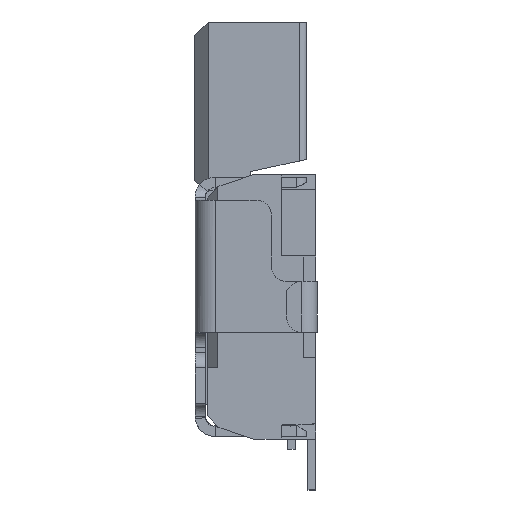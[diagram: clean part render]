
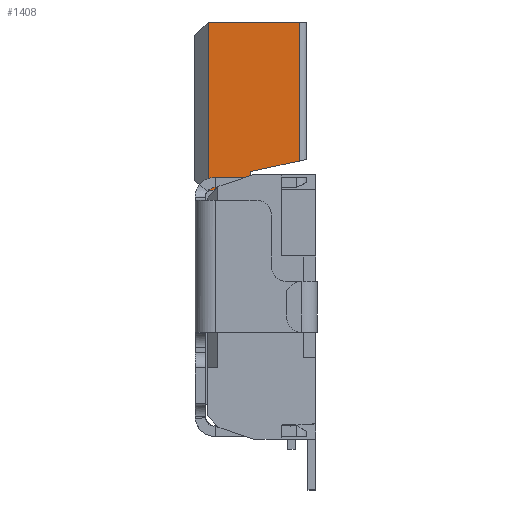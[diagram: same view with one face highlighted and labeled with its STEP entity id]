
A CAD part, left-side view. The second image highlights one B-rep face of the part: STEP entity #1408.
In plain terms, the highlighted planar face has unit normal (-1, 0, 0).
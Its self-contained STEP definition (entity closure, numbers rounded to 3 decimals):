
#1378 = ORIENTED_EDGE ( 'NONE', *, *, #1552, .F. ) ;
#1400 = VERTEX_POINT ( 'NONE', #2704 ) ;
#1402 = EDGE_CURVE ( 'NONE', #1509, #1483, #2702, .T. ) ;
#1408 = ADVANCED_FACE ( 'NONE', ( #2858 ), #2927, .T. ) ;
#1463 = ORIENTED_EDGE ( 'NONE', *, *, #1464, .T. ) ;
#1464 = EDGE_CURVE ( 'NONE', #14838, #1485, #3002, .T. ) ;
#1472 = EDGE_CURVE ( 'NONE', #5924, #1400, #2975, .T. ) ;
#1482 = EDGE_CURVE ( 'NONE', #1483, #1504, #3076, .T. ) ;
#1483 = VERTEX_POINT ( 'NONE', #3072 ) ;
#1484 = ORIENTED_EDGE ( 'NONE', *, *, #5874, .T. ) ;
#1485 = VERTEX_POINT ( 'NONE', #3071 ) ;
#1486 = ORIENTED_EDGE ( 'NONE', *, *, #1482, .T. ) ;
#1488 = ORIENTED_EDGE ( 'NONE', *, *, #1402, .T. ) ;
#1500 = VERTEX_POINT ( 'NONE', #2966 ) ;
#1504 = VERTEX_POINT ( 'NONE', #2959 ) ;
#1505 = EDGE_LOOP ( 'NONE', ( #1486, #1378, #1679, #1484, #1463, #1548, #1657, #1507, #1488 ) ) ;
#1507 = ORIENTED_EDGE ( 'NONE', *, *, #1508, .T. ) ;
#1508 = EDGE_CURVE ( 'NONE', #1551, #1509, #3000, .T. ) ;
#1509 = VERTEX_POINT ( 'NONE', #2996 ) ;
#1548 = ORIENTED_EDGE ( 'NONE', *, *, #1550, .T. ) ;
#1549 = EDGE_CURVE ( 'NONE', #1500, #1551, #3230, .T. ) ;
#1550 = EDGE_CURVE ( 'NONE', #1485, #1500, #3252, .T. ) ;
#1551 = VERTEX_POINT ( 'NONE', #3248 ) ;
#1552 = EDGE_CURVE ( 'NONE', #1400, #1504, #3233, .T. ) ;
#1657 = ORIENTED_EDGE ( 'NONE', *, *, #1549, .T. ) ;
#1679 = ORIENTED_EDGE ( 'NONE', *, *, #1472, .F. ) ;
#2699 = DIRECTION ( 'NONE',  ( 0., 0., 1. ) ) ;
#2700 = VECTOR ( 'NONE', #2699, 1000. ) ;
#2701 = CARTESIAN_POINT ( 'NONE',  ( 0.85, 0.637, 2.9 ) ) ;
#2702 = LINE ( 'NONE', #2701, #2700 ) ;
#2704 = CARTESIAN_POINT ( 'NONE',  ( 0.85, 0.162, 2.9 ) ) ;
#2847 = AXIS2_PLACEMENT_3D ( 'NONE', #2849, #2848, #2935 ) ;
#2848 = DIRECTION ( 'NONE',  ( -1., 0., 0. ) ) ;
#2849 = CARTESIAN_POINT ( 'NONE',  ( 0.85, 0.087, 2.9 ) ) ;
#2858 = FACE_OUTER_BOUND ( 'NONE', #1505, .T. ) ;
#2927 = PLANE ( 'NONE',  #2847 ) ;
#2935 = DIRECTION ( 'NONE',  ( 0., 1., 0. ) ) ;
#2959 = CARTESIAN_POINT ( 'NONE',  ( 0.85, 0.162, 1.534 ) ) ;
#2966 = CARTESIAN_POINT ( 'NONE',  ( 0.85, 1.085, 1.2 ) ) ;
#2972 = DIRECTION ( 'NONE',  ( 0., -1., 0. ) ) ;
#2973 = VECTOR ( 'NONE', #2972, 1000. ) ;
#2974 = CARTESIAN_POINT ( 'NONE',  ( 0.85, 0.087, 2.9 ) ) ;
#2975 = LINE ( 'NONE', #2974, #2973 ) ;
#2996 = CARTESIAN_POINT ( 'NONE',  ( 0.85, 0.637, 1.19 ) ) ;
#2997 = DIRECTION ( 'NONE',  ( 0., -1., 0. ) ) ;
#2998 = VECTOR ( 'NONE', #2997, 1000. ) ;
#2999 = CARTESIAN_POINT ( 'NONE',  ( 0.85, 0.087, 1.19 ) ) ;
#3000 = LINE ( 'NONE', #2999, #2998 ) ;
#3002 = LINE ( 'NONE', #3010, #3009 ) ;
#3008 = DIRECTION ( 'NONE',  ( 0., 1., 0. ) ) ;
#3009 = VECTOR ( 'NONE', #3008, 1000. ) ;
#3010 = CARTESIAN_POINT ( 'NONE',  ( 0.85, 0.087, 1.24 ) ) ;
#3071 = CARTESIAN_POINT ( 'NONE',  ( 0.85, 1.085, 1.24 ) ) ;
#3072 = CARTESIAN_POINT ( 'NONE',  ( 0.85, 0.637, 1.43 ) ) ;
#3073 = DIRECTION ( 'NONE',  ( 0., -0.977, 0.213 ) ) ;
#3074 = VECTOR ( 'NONE', #3073, 1000. ) ;
#3075 = CARTESIAN_POINT ( 'NONE',  ( 0.85, 0.637, 1.43 ) ) ;
#3076 = LINE ( 'NONE', #3075, #3074 ) ;
#3165 = DIRECTION ( 'NONE',  ( 0., 0., -1. ) ) ;
#3227 = DIRECTION ( 'NONE',  ( 0., 0., -1. ) ) ;
#3228 = VECTOR ( 'NONE', #3227, 1000. ) ;
#3229 = CARTESIAN_POINT ( 'NONE',  ( 0.85, 1.085, 2.9 ) ) ;
#3230 = LINE ( 'NONE', #3229, #3228 ) ;
#3231 = VECTOR ( 'NONE', #3165, 1000. ) ;
#3232 = CARTESIAN_POINT ( 'NONE',  ( 0.85, 0.162, 2.9 ) ) ;
#3233 = LINE ( 'NONE', #3232, #3231 ) ;
#3248 = CARTESIAN_POINT ( 'NONE',  ( 0.85, 1.085, 1.19 ) ) ;
#3249 = DIRECTION ( 'NONE',  ( 0., 0., -1. ) ) ;
#3250 = VECTOR ( 'NONE', #3249, 1000. ) ;
#3251 = CARTESIAN_POINT ( 'NONE',  ( 0.85, 1.085, 2.9 ) ) ;
#3252 = LINE ( 'NONE', #3251, #3250 ) ;
#5874 = EDGE_CURVE ( 'NONE', #5924, #14838, #6666, .T. ) ;
#5924 = VERTEX_POINT ( 'NONE', #6847 ) ;
#6663 = DIRECTION ( 'NONE',  ( 0., 0., -1. ) ) ;
#6664 = VECTOR ( 'NONE', #6663, 1000. ) ;
#6665 = CARTESIAN_POINT ( 'NONE',  ( 0.85, 1.057, 2.9 ) ) ;
#6666 = LINE ( 'NONE', #6665, #6664 ) ;
#6847 = CARTESIAN_POINT ( 'NONE',  ( 0.85, 1.057, 2.9 ) ) ;
#11683 = CARTESIAN_POINT ( 'NONE',  ( 0.85, 1.057, 1.24 ) ) ;
#14838 = VERTEX_POINT ( 'NONE', #11683 ) ;
